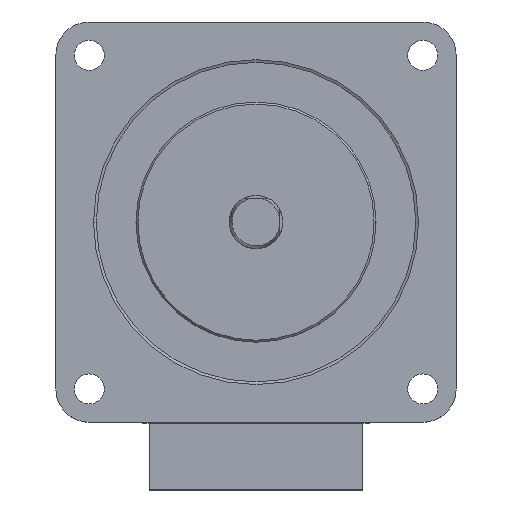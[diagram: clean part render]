
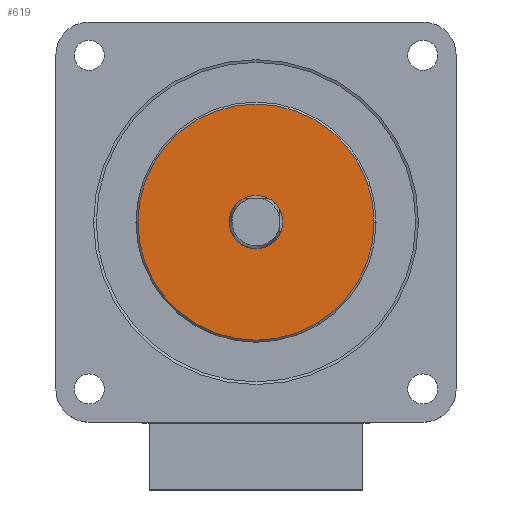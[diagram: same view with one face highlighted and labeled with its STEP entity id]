
A CAD part, top view. The second image highlights one B-rep face of the part: STEP entity #619.
In plain terms, the highlighted planar face has unit normal (0, 0, 1).
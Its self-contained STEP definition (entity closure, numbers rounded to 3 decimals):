
#42 = DIRECTION ( 'NONE',  ( 0., 0., -1. ) ) ;
#131 = CIRCLE ( 'NONE', #953, 17.7 ) ;
#221 = DIRECTION ( 'NONE',  ( 0., 0., -1. ) ) ;
#249 = EDGE_LOOP ( 'NONE', ( #338, #2217 ) ) ;
#298 = CARTESIAN_POINT ( 'NONE',  ( 0., 0., 0. ) ) ;
#338 = ORIENTED_EDGE ( 'NONE', *, *, #1172, .T. ) ;
#386 = CARTESIAN_POINT ( 'NONE',  ( -17.7, 0., 0. ) ) ;
#425 = DIRECTION ( 'NONE',  ( -1., 0., 0. ) ) ;
#491 = CARTESIAN_POINT ( 'NONE',  ( 0., 0., 0. ) ) ;
#536 = ORIENTED_EDGE ( 'NONE', *, *, #1437, .T. ) ;
#575 = ORIENTED_EDGE ( 'NONE', *, *, #797, .T. ) ;
#588 = AXIS2_PLACEMENT_3D ( 'NONE', #298, #42, #2258 ) ;
#619 = ADVANCED_FACE ( 'NONE', ( #1387, #706 ), #2265, .F. ) ;
#685 = DIRECTION ( 'NONE',  ( 0., 0., 1. ) ) ;
#706 = FACE_BOUND ( 'NONE', #878, .T. ) ;
#730 = VERTEX_POINT ( 'NONE', #2122 ) ;
#763 = AXIS2_PLACEMENT_3D ( 'NONE', #2021, #1770, #1529 ) ;
#797 = EDGE_CURVE ( 'NONE', #1114, #1800, #1630, .T. ) ;
#878 = EDGE_LOOP ( 'NONE', ( #536, #575 ) ) ;
#914 = VERTEX_POINT ( 'NONE', #386 ) ;
#938 = AXIS2_PLACEMENT_3D ( 'NONE', #944, #685, #425 ) ;
#944 = CARTESIAN_POINT ( 'NONE',  ( 0., 0., 0. ) ) ;
#953 = AXIS2_PLACEMENT_3D ( 'NONE', #1689, #1448, #1193 ) ;
#1079 = CIRCLE ( 'NONE', #1507, 4. ) ;
#1114 = VERTEX_POINT ( 'NONE', #2191 ) ;
#1172 = EDGE_CURVE ( 'NONE', #914, #730, #1636, .T. ) ;
#1193 = DIRECTION ( 'NONE',  ( -1., 0., 0. ) ) ;
#1387 = FACE_OUTER_BOUND ( 'NONE', #249, .T. ) ;
#1437 = EDGE_CURVE ( 'NONE', #1800, #1114, #1079, .T. ) ;
#1448 = DIRECTION ( 'NONE',  ( 0., 0., 1. ) ) ;
#1507 = AXIS2_PLACEMENT_3D ( 'NONE', #491, #221, #2436 ) ;
#1529 = DIRECTION ( 'NONE',  ( -1., 0., 0. ) ) ;
#1630 = CIRCLE ( 'NONE', #588, 4. ) ;
#1636 = CIRCLE ( 'NONE', #938, 17.7 ) ;
#1689 = CARTESIAN_POINT ( 'NONE',  ( 0., 0., 0. ) ) ;
#1770 = DIRECTION ( 'NONE',  ( 0., 0., -1. ) ) ;
#1800 = VERTEX_POINT ( 'NONE', #1891 ) ;
#1891 = CARTESIAN_POINT ( 'NONE',  ( -4., 0., 0. ) ) ;
#2021 = CARTESIAN_POINT ( 'NONE',  ( 0., 0., 0. ) ) ;
#2115 = EDGE_CURVE ( 'NONE', #730, #914, #131, .T. ) ;
#2122 = CARTESIAN_POINT ( 'NONE',  ( 17.7, 0., 0. ) ) ;
#2191 = CARTESIAN_POINT ( 'NONE',  ( 4., 0., 0. ) ) ;
#2217 = ORIENTED_EDGE ( 'NONE', *, *, #2115, .T. ) ;
#2258 = DIRECTION ( 'NONE',  ( -1., 0., 0. ) ) ;
#2265 = PLANE ( 'NONE',  #763 ) ;
#2436 = DIRECTION ( 'NONE',  ( -1., 0., 0. ) ) ;
